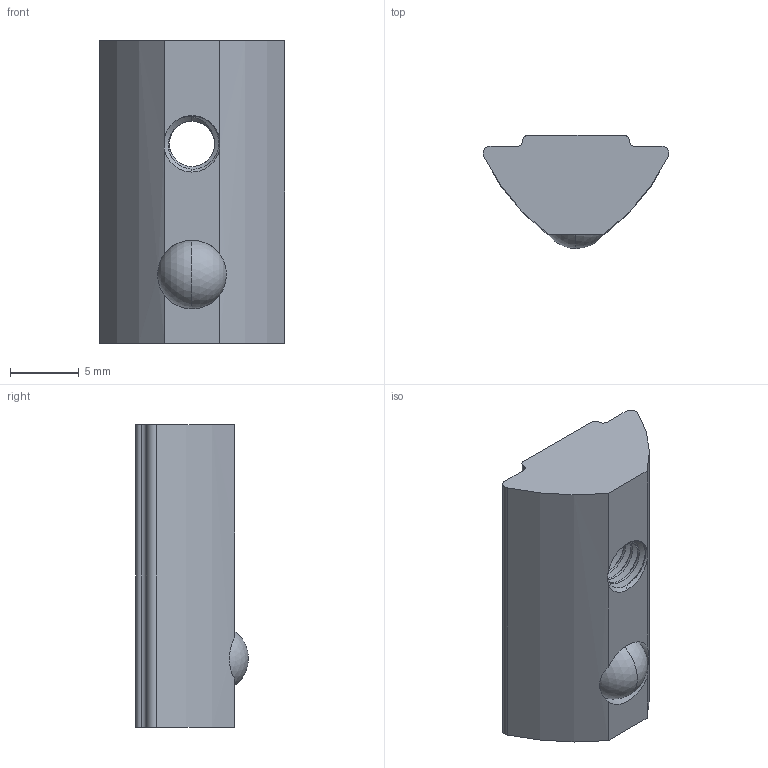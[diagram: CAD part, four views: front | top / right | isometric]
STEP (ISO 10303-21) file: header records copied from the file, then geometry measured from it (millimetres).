
FILE_DESCRIPTION (( 'STEP AP203' ), '1' );
FILE_NAME ('355019_Nutenstein 8 H=7,2 M4 einschwenkbar mit Kugel und Steg.step', '2022-11-24T09:16:47', ( '' ), ( '' ), 'SwSTEP 2.0', 'SolidWorks 2021', '' );
FILE_SCHEMA (( 'CONFIG_CONTROL_DESIGN' ));
Length unit declared in the file: millimetre
Products named in the file (1): 355019_Nutenstein 8 H=7,2 M4 einschwenkbar mit Kugel und Steg
Bounding box: 13.5 x 8.2 x 22 mm (x, y, z)
Volume: 1413.3 mm3; surface area: 1168.7 mm2
Topology: 2 solids, 2 shells, 50 faces, 147 edges, 98 vertices
Faces by surface type: cylinder 31, plane 9, cone 5, bspline 3, sphere 2
Entity records: 4341 total; most frequent: CARTESIAN_POINT 3073, ORIENTED_EDGE 284, DIRECTION 213, EDGE_CURVE 142, VERTEX_POINT 95, AXIS2_PLACEMENT_3D 81, EDGE_LOOP 51, VECTOR 51
